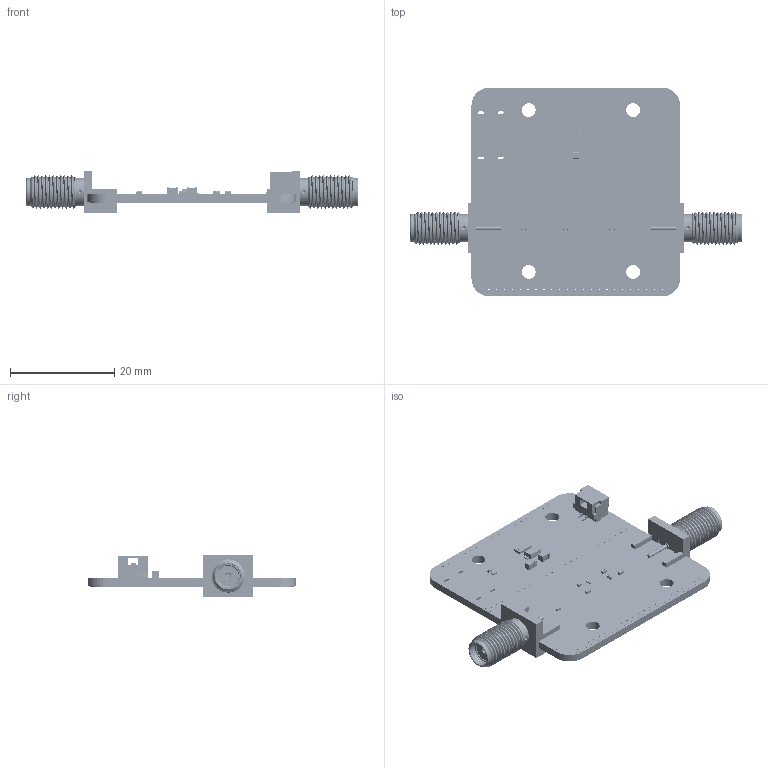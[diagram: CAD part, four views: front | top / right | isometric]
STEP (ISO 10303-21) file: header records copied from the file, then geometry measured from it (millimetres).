
FILE_DESCRIPTION(('KiCad electronic assembly'),'2;1');
FILE_NAME('.step','2026-03-28T23:48:02',('Pcbnew'),('Kicad'), 'Open CASCADE STEP processor 7.9','KiCad to STEP converter','Unknown' );
FILE_SCHEMA(('AUTOMOTIVE_DESIGN { 1 0 10303 214 1 1 1 1 }'));
Length unit declared in the file: millimetre
Products named in the file (16): .step 1; C_0402_1005Metric; L_0402_1005Metric; Fuse_1206_3216Metric; R_0402_1005Metric; C_0805_2012Metric; D_SMF; SMA_Amphenol_132289_EdgeMount; JST_GH_SM02B-GHS-TB_1x02-1MP_P1.25mm_Horizontal; pre_filter_copper; pre_filter_pad; pre_filter_via; pre_filter_silkscreen; pre_filter_soldermask; pre_filter_PCB
Assembly tree (23 placements, depth 2):
  .step 1
    C_0402_1005Metric  x5
    L_0402_1005Metric
    Fuse_1206_3216Metric
    R_0402_1005Metric  x3
    C_0805_2012Metric  x2
    D_SMF
    SMA_Amphenol_132289_EdgeMount  x2
    JST_GH_SM02B-GHS-TB_1x02-1MP_P1.25mm_Horizontal
    pre_filter_copper
    pre_filter_pad
    pre_filter_via
    pre_filter_silkscreen
    pre_filter_soldermask
    pre_filter_soldermask
    pre_filter_PCB
Bounding box: 63.58 x 40 x 7.92 mm (x, y, z)
Volume: 3386.1 mm3; surface area: 13900.9 mm2
Topology: 284 solids, 352 shells, 3356 faces, 9072 edges, 6398 vertices
Faces by surface type: plane 1847, cylinder 1397, bspline 88, cone 16, sphere 8
Full cylindrical faces by diameter (mm): 0.25 x161, 0.275 x300, 0.3 x300, 0.5 x6, 0.76 x2, 0.97 x2, 1.111 x6, 1.27 x2, 2.65 x20, 2.675 x8, 2.7 x8, 3.1 x8, 4 x2, 4.2 x2, 4.597 x2, 4.7 x8, 5.385 x4, 6.35 x20
Entity records: 107915 total; most frequent: CARTESIAN_POINT 20705, DIRECTION 17297, ORIENTED_EDGE 15448, EDGE_CURVE 8318, AXIS2_PLACEMENT_3D 6065, VERTEX_POINT 5919, LINE 5167, VECTOR 5167
